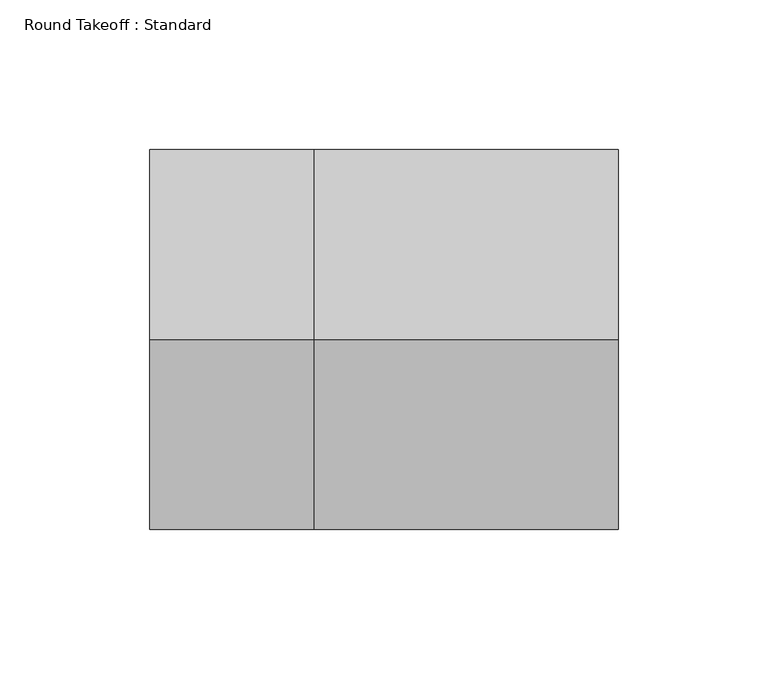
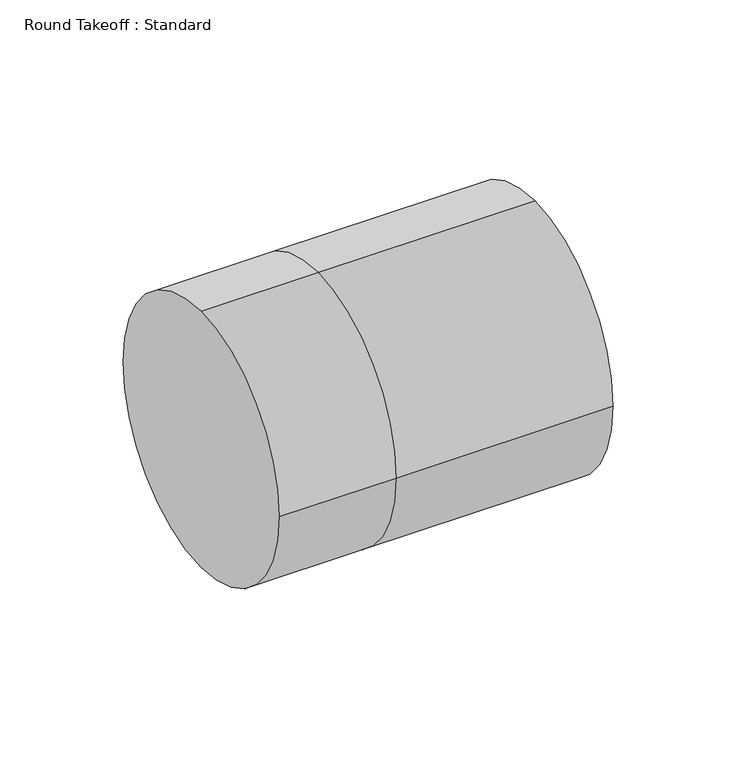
"""IFC4 building model written with IfcOpenShell, lengths in millimetres: duct fitting geometry, Round Takeoff : Standard."""

from ifc_helpers import new_model, si_unit, frame, origin, place, context, project, spatial, circle_curve, source, transform, mapped, element, save
from ifc_brep_helpers import plane_surface, cylinder_surface, advanced_brep


def round_takeoff_standard_fe6830fc(model_context):
    return source(origin(), model_context, "Body", "AdvancedBrep", [
        advanced_brep(
        [(101.6, 0.0, 63.5), (101.6, -63.5, 0.0), (101.6, 0.0, -63.5), (101.6, 63.5, 0.0), (0.0, 63.5, 0.0), (0.0, 0.0, 63.5), (0.0, 0.0, -63.5), (0.0, -63.5, 0.0), (-55.0779899, 0.0, 63.5), (-55.0779899, 63.5, 0.0), (-55.0779899, 0.0, -63.5), (-55.0779899, -63.5, 0.0)],
        [
            (0, 1, circle_curve(frame((101.6, 0.0, 0.0), z_axis=(1.0, 0.0, 0.0), x_axis=(0.0, 1.0, 0.0)), 63.5)),
            (1, 2, circle_curve(frame((101.6, 0.0, 0.0), z_axis=(1.0, 0.0, 0.0), x_axis=(0.0, 1.0, 0.0)), 63.5)),
            (2, 3, circle_curve(frame((101.6, 0.0, 0.0), z_axis=(1.0, 0.0, 0.0), x_axis=(0.0, 1.0, 0.0)), 63.5)),
            (3, 0, circle_curve(frame((101.6, 0.0, 0.0), z_axis=(1.0, 0.0, 0.0), x_axis=(0.0, 1.0, 0.0)), 63.5)),
            (3, 4),
            (4, 5, circle_curve(frame((0.0, 0.0, 0.0), z_axis=(1.0, 0.0, 0.0), x_axis=(0.0, 1.0, 0.0)), 63.5)),
            (5, 0),
            (2, 6),
            (6, 4, circle_curve(frame((0.0, 0.0, 0.0), z_axis=(1.0, 0.0, 0.0), x_axis=(0.0, 1.0, 0.0)), 63.5)),
            (1, 7),
            (7, 6, circle_curve(frame((0.0, 0.0, 0.0), z_axis=(1.0, 0.0, 0.0), x_axis=(0.0, 1.0, 0.0)), 63.5)),
            (5, 7, circle_curve(frame((0.0, 0.0, 0.0), z_axis=(1.0, 0.0, 0.0), x_axis=(0.0, 1.0, 0.0)), 63.5)),
            (8, 9, circle_curve(frame((-55.0779899, 0.0, 0.0), z_axis=(-1.0, 0.0, 0.0), x_axis=(0.0, 1.0, 0.0)), 63.5)),
            (9, 10, circle_curve(frame((-55.0779899, 0.0, 0.0), z_axis=(-1.0, 0.0, 0.0), x_axis=(0.0, 1.0, 0.0)), 63.5)),
            (10, 11, circle_curve(frame((-55.0779899, 0.0, 0.0), z_axis=(-1.0, 0.0, 0.0), x_axis=(0.0, 1.0, 0.0)), 63.5)),
            (11, 8, circle_curve(frame((-55.0779899, 0.0, 0.0), z_axis=(-1.0, 0.0, 0.0), x_axis=(0.0, 1.0, 0.0)), 63.5)),
            (8, 5),
            (4, 9),
            (6, 10),
            (7, 11),
        ],
        [
            plane_surface(frame((101.6, 0.0, 0.0), z_axis=(1.0, 0.0, 0.0), x_axis=(0.0, 0.0, 1.0))),
            cylinder_surface(frame((0.0, 0.0, 0.0), z_axis=(-1.0, 0.0, 0.0), x_axis=(0.0, 1.0, 0.0)), 63.5),
            plane_surface(frame((-55.0779899, 0.0, 0.0), z_axis=(-1.0, 0.0, 0.0), x_axis=(0.0, 0.0, 1.0))),
            cylinder_surface(frame((-55.0779899, 0.0, 0.0), z_axis=(-1.0, 0.0, 0.0), x_axis=(0.0, 1.0, 0.0)), 63.5),
        ],
        [
            (0, [[1, 2, 3, 4]]),
            (1, [[-4, 5, 6, 7]]),
            (1, [[-3, 8, 9, -5]]),
            (1, [[-2, 10, 11, -8]]),
            (1, [[-1, -7, 12, -10]]),
            (2, [[13, 14, 15, 16]]),
            (3, [[-13, 17, -6, 18]]),
            (3, [[-14, -18, -9, 19]]),
            (3, [[-15, -19, -11, 20]]),
            (3, [[-16, -20, -12, -17]]),
        ],
    ),
    ])


if __name__ == "__main__":
    model = new_model("IFC4")
    model_context = context("Model", 3, world=origin())
    ifc_project = project(units=[si_unit("LENGTHUNIT", "METRE", prefix="MILLI")], contexts=[model_context])
    site = spatial("IfcSite", under=ifc_project)
    building = spatial("IfcBuilding", under=site)
    placement = place(None, origin())
    round_takeoff_standard_shape = round_takeoff_standard_fe6830fc(model_context)
    element("IfcDuctFitting", 1, ObjectType="Round Takeoff : Standard", at=placement, inside=building, context=model_context, shape_type="MappedRepresentation", body=[
        mapped(round_takeoff_standard_shape, transform((0.0, 0.0, 0.0), x_axis=(1.0, 0.0, 0.0), y_axis=(0.0, 1.0, 0.0), z_axis=(0.0, 0.0, 1.0))),
    ])
    save(model, "model.ifc")
